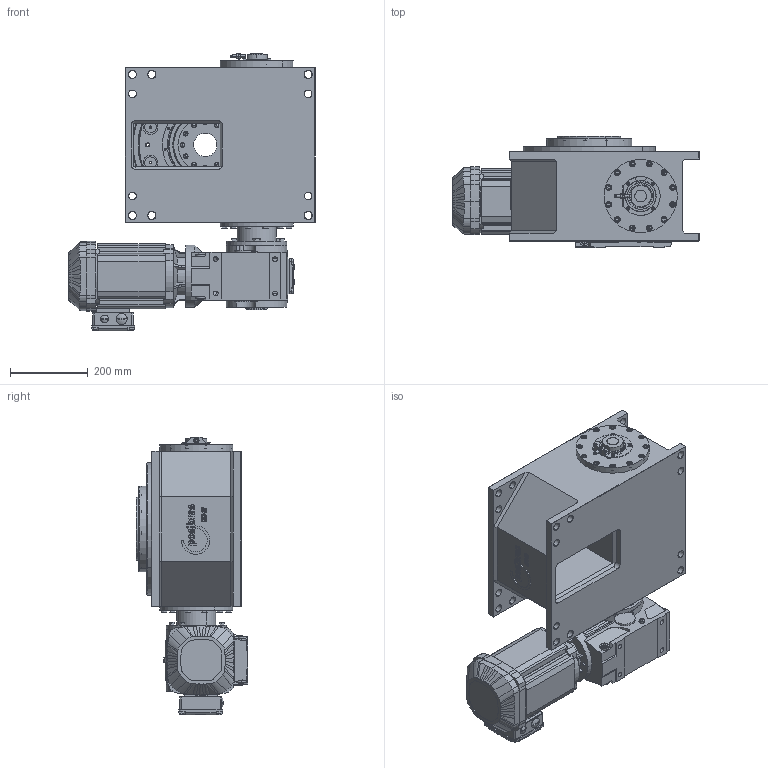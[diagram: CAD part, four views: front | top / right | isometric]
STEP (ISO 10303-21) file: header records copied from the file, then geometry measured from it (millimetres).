
FILE_DESCRIPTION (( 'STEP AP214' ), '1' );
FILE_NAME ('M340_SEW_KA57DRN90L4_D1_10.STEP', '2020-06-17T12:17:18', ( '' ), ( '' ), 'SwSTEP 2.0', 'SolidWorks 2020', '' );
FILE_SCHEMA (( 'AUTOMOTIVE_DESIGN' ));
Length unit declared in the file: millimetre
Products named in the file (1): M340_SEW_KA57DRN90L4_D1_10
Bounding box: 632 x 286 x 712.47 mm (x, y, z)
Surface area: 1700383.2 mm2 (no closed solid volume)
Topology: 0 solids, 118 shells, 1882 faces, 5829 edges, 3904 vertices
Faces by surface type: plane 920, cylinder 564, cone 204, bspline 98, torus 92, sphere 4
Entity records: 91868 total; most frequent: CARTESIAN_POINT 20228, DIRECTION 10602, ORIENTED_EDGE 9734, EDGE_CURVE 5781, VERTEX_POINT 3904, AXIS2_PLACEMENT_3D 3706, VECTOR 3190, LINE 3190
